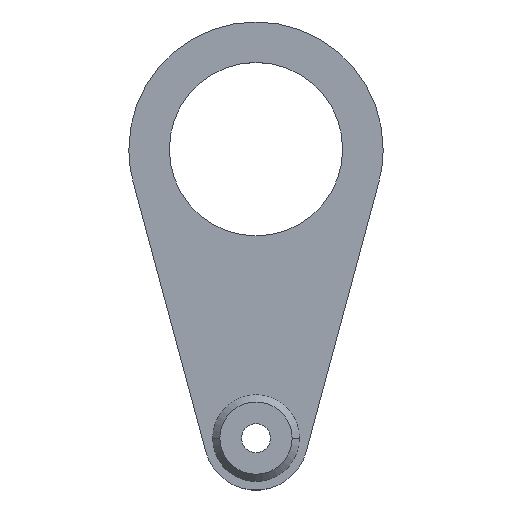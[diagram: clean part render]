
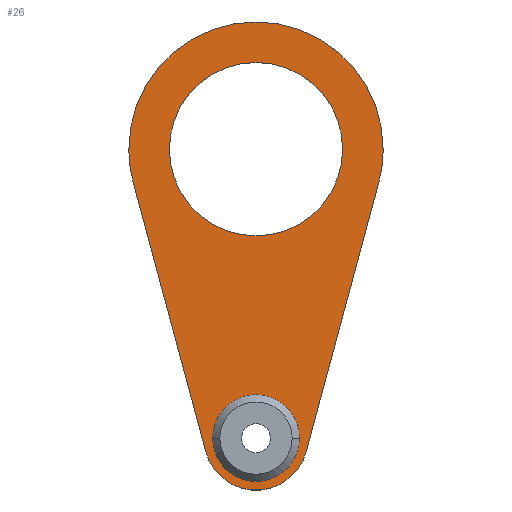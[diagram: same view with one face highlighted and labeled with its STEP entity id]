
A CAD part, top view. The second image highlights one B-rep face of the part: STEP entity #26.
In plain terms, the highlighted planar face has unit normal (0, 0, 1).
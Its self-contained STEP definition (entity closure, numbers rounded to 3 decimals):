
#26 = ADVANCED_FACE ( 'NONE', ( #571, #492, #572 ), #938, .F. ) ;
#85 = EDGE_CURVE ( 'NONE', #1505, #1506, #441, .T. ) ;
#86 = EDGE_CURVE ( 'NONE', #1536, #1508, #445, .T. ) ;
#87 = EDGE_CURVE ( 'NONE', #1507, #1534, #443, .T. ) ;
#89 = EDGE_CURVE ( 'NONE', #1506, #1507, #450, .T. ) ;
#91 = EDGE_CURVE ( 'NONE', #1497, #684, #448, .T. ) ;
#94 = EDGE_CURVE ( 'NONE', #699, #705, #453, .T. ) ;
#107 = AXIS2_PLACEMENT_3D ( 'NONE', #930, #929, #928 ) ;
#110 = EDGE_CURVE ( 'NONE', #705, #1505, #457, .T. ) ;
#120 = EDGE_CURVE ( 'NONE', #1508, #1536, #470, .T. ) ;
#162 = EDGE_CURVE ( 'NONE', #1534, #699, #1643, .T. ) ;
#173 = EDGE_CURVE ( 'NONE', #684, #1497, #1658, .T. ) ;
#233 = AXIS2_PLACEMENT_3D ( 'NONE', #1047, #1045, #1044 ) ;
#240 = AXIS2_PLACEMENT_3D ( 'NONE', #1103, #1096, #1101 ) ;
#267 = AXIS2_PLACEMENT_3D ( 'NONE', #1420, #1415, #1413 ) ;
#278 = AXIS2_PLACEMENT_3D ( 'NONE', #1190, #1187, #1175 ) ;
#314 = AXIS2_PLACEMENT_3D ( 'NONE', #1332, #1320, #1307 ) ;
#316 = AXIS2_PLACEMENT_3D ( 'NONE', #1264, #1263, #1258 ) ;
#343 = AXIS2_PLACEMENT_3D ( 'NONE', #1329, #1321, #1324 ) ;
#344 = AXIS2_PLACEMENT_3D ( 'NONE', #1344, #1343, #1414 ) ;
#441 = LINE ( 'NONE', #1357, #446 ) ;
#443 = LINE ( 'NONE', #1046, #449 ) ;
#445 = CIRCLE ( 'NONE', #344, 30. ) ;
#446 = VECTOR ( 'NONE', #1382, 1000. ) ;
#448 = CIRCLE ( 'NONE', #314, 15. ) ;
#449 = VECTOR ( 'NONE', #1354, 1000. ) ;
#450 = CIRCLE ( 'NONE', #343, 18. ) ;
#453 = CIRCLE ( 'NONE', #316, 44. ) ;
#457 = CIRCLE ( 'NONE', #278, 44. ) ;
#470 = CIRCLE ( 'NONE', #267, 30. ) ;
#492 = FACE_OUTER_BOUND ( 'NONE', #1576, .T. ) ;
#571 = FACE_BOUND ( 'NONE', #1577, .T. ) ;
#572 = FACE_BOUND ( 'NONE', #1571, .T. ) ;
#684 = VERTEX_POINT ( 'NONE', #827 ) ;
#699 = VERTEX_POINT ( 'NONE', #821 ) ;
#705 = VERTEX_POINT ( 'NONE', #817 ) ;
#783 = CARTESIAN_POINT ( 'NONE',  ( -42.487, -11.44, -36.5 ) ) ;
#786 = CARTESIAN_POINT ( 'NONE',  ( 30., 0., -36.5 ) ) ;
#791 = CARTESIAN_POINT ( 'NONE',  ( -30., 0., -36.5 ) ) ;
#792 = CARTESIAN_POINT ( 'NONE',  ( -17.381, -104.68, -36.5 ) ) ;
#793 = CARTESIAN_POINT ( 'NONE',  ( 17.381, -104.68, -36.5 ) ) ;
#794 = CARTESIAN_POINT ( 'NONE',  ( 42.487, -11.44, -36.5 ) ) ;
#798 = CARTESIAN_POINT ( 'NONE',  ( -15., -100., -36.5 ) ) ;
#817 = CARTESIAN_POINT ( 'NONE',  ( 44., 0., -36.5 ) ) ;
#821 = CARTESIAN_POINT ( 'NONE',  ( -44., 0., -36.5 ) ) ;
#827 = CARTESIAN_POINT ( 'NONE',  ( 15., -100., -36.5 ) ) ;
#862 = ORIENTED_EDGE ( 'NONE', *, *, #94, .F. ) ;
#863 = ORIENTED_EDGE ( 'NONE', *, *, #162, .F. ) ;
#864 = ORIENTED_EDGE ( 'NONE', *, *, #87, .F. ) ;
#865 = ORIENTED_EDGE ( 'NONE', *, *, #89, .F. ) ;
#928 = DIRECTION ( 'NONE',  ( -1., 0., 0. ) ) ;
#929 = DIRECTION ( 'NONE',  ( 0., 0., -1. ) ) ;
#930 = CARTESIAN_POINT ( 'NONE',  ( 0., 0., -36.5 ) ) ;
#938 = PLANE ( 'NONE',  #107 ) ;
#1044 = DIRECTION ( 'NONE',  ( -1., 0., 0. ) ) ;
#1045 = DIRECTION ( 'NONE',  ( 0., 0., 1. ) ) ;
#1046 = CARTESIAN_POINT ( 'NONE',  ( -17.381, -104.68, -36.5 ) ) ;
#1047 = CARTESIAN_POINT ( 'NONE',  ( 0., -100., -36.5 ) ) ;
#1096 = DIRECTION ( 'NONE',  ( 0., 0., -1. ) ) ;
#1101 = DIRECTION ( 'NONE',  ( -1., 0., 0. ) ) ;
#1103 = CARTESIAN_POINT ( 'NONE',  ( 0., 0., -36.5 ) ) ;
#1175 = DIRECTION ( 'NONE',  ( -1., 0., 0. ) ) ;
#1187 = DIRECTION ( 'NONE',  ( 0., 0., -1. ) ) ;
#1190 = CARTESIAN_POINT ( 'NONE',  ( 0., 0., -36.5 ) ) ;
#1258 = DIRECTION ( 'NONE',  ( -1., 0., 0. ) ) ;
#1263 = DIRECTION ( 'NONE',  ( 0., 0., -1. ) ) ;
#1264 = CARTESIAN_POINT ( 'NONE',  ( 0., 0., -36.5 ) ) ;
#1307 = DIRECTION ( 'NONE',  ( -1., 0., 0. ) ) ;
#1320 = DIRECTION ( 'NONE',  ( 0., 0., 1. ) ) ;
#1321 = DIRECTION ( 'NONE',  ( 0., 0., -1. ) ) ;
#1324 = DIRECTION ( 'NONE',  ( -1., 0., 0. ) ) ;
#1329 = CARTESIAN_POINT ( 'NONE',  ( 0., -100., -36.5 ) ) ;
#1332 = CARTESIAN_POINT ( 'NONE',  ( 0., -100., -36.5 ) ) ;
#1343 = DIRECTION ( 'NONE',  ( 0., 0., 1. ) ) ;
#1344 = CARTESIAN_POINT ( 'NONE',  ( 0., 0., -36.5 ) ) ;
#1354 = DIRECTION ( 'NONE',  ( -0.26, 0.966, 0. ) ) ;
#1357 = CARTESIAN_POINT ( 'NONE',  ( 42.487, -11.44, -36.5 ) ) ;
#1382 = DIRECTION ( 'NONE',  ( -0.26, -0.966, 0. ) ) ;
#1413 = DIRECTION ( 'NONE',  ( -1., 0., 0. ) ) ;
#1414 = DIRECTION ( 'NONE',  ( -1., 0., 0. ) ) ;
#1415 = DIRECTION ( 'NONE',  ( 0., 0., 1. ) ) ;
#1420 = CARTESIAN_POINT ( 'NONE',  ( 0., 0., -36.5 ) ) ;
#1497 = VERTEX_POINT ( 'NONE', #798 ) ;
#1505 = VERTEX_POINT ( 'NONE', #794 ) ;
#1506 = VERTEX_POINT ( 'NONE', #793 ) ;
#1507 = VERTEX_POINT ( 'NONE', #792 ) ;
#1508 = VERTEX_POINT ( 'NONE', #791 ) ;
#1513 = ORIENTED_EDGE ( 'NONE', *, *, #173, .F. ) ;
#1514 = ORIENTED_EDGE ( 'NONE', *, *, #91, .F. ) ;
#1534 = VERTEX_POINT ( 'NONE', #783 ) ;
#1536 = VERTEX_POINT ( 'NONE', #786 ) ;
#1571 = EDGE_LOOP ( 'NONE', ( #1514, #1513 ) ) ;
#1576 = EDGE_LOOP ( 'NONE', ( #1719, #1720, #862, #863, #864, #865 ) ) ;
#1577 = EDGE_LOOP ( 'NONE', ( #1717, #1718 ) ) ;
#1643 = CIRCLE ( 'NONE', #240, 44. ) ;
#1658 = CIRCLE ( 'NONE', #233, 15. ) ;
#1717 = ORIENTED_EDGE ( 'NONE', *, *, #120, .F. ) ;
#1718 = ORIENTED_EDGE ( 'NONE', *, *, #86, .F. ) ;
#1719 = ORIENTED_EDGE ( 'NONE', *, *, #85, .F. ) ;
#1720 = ORIENTED_EDGE ( 'NONE', *, *, #110, .F. ) ;
